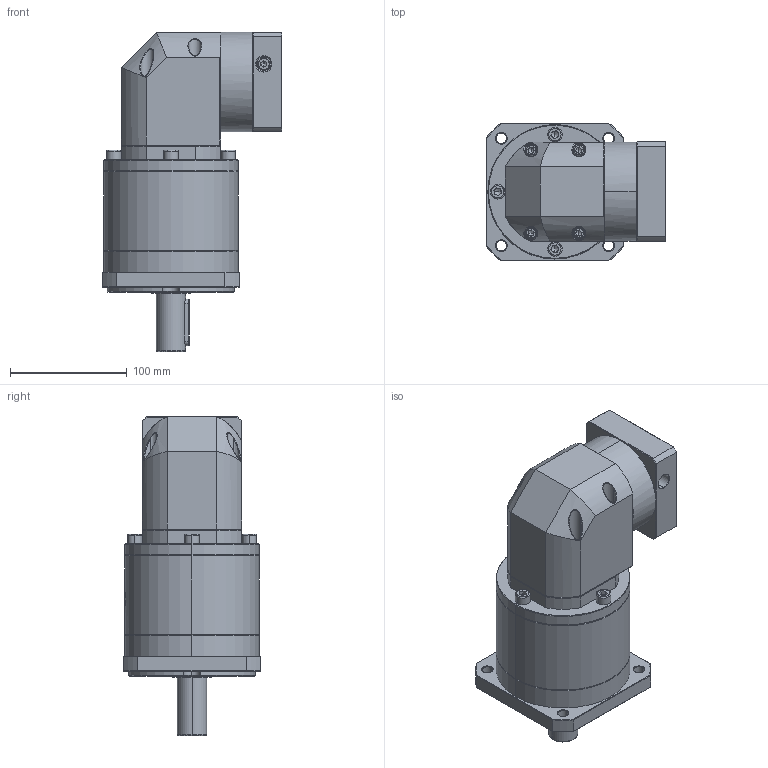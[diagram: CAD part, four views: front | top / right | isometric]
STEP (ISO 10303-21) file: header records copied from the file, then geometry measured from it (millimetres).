
FILE_DESCRIPTION (( 'STEP AP214' ), '1' );
FILE_NAME ('ZFR120A-D25-L3-P2-16-80-100-M6.step', '2023-08-27T09:17:01', ( '' ), ( '' ), 'SwSTEP 2.0', 'SolidWorks 2016', '' );
FILE_SCHEMA (( 'AUTOMOTIVE_DESIGN' ));
Length unit declared in the file: millimetre
Products named in the file (1): ZFR120A-D25-L3-P2-16-80-100-M6
Bounding box: 154.1 x 118 x 273.5 mm (x, y, z)
Volume: 2149262.4 mm3; surface area: 181609.8 mm2
Topology: 6 solids, 6 shells, 2398 faces, 6275 edges, 3985 vertices
Faces by surface type: plane 1153, cylinder 455, bspline 443, cone 333, torus 14
Entity records: 129948 total; most frequent: CARTESIAN_POINT 50293, ORIENTED_EDGE 12458, DIRECTION 9197, EDGE_CURVE 6229, VERTEX_POINT 3985, VECTOR 3333, LINE 3333, AXIS2_PLACEMENT_3D 2932
